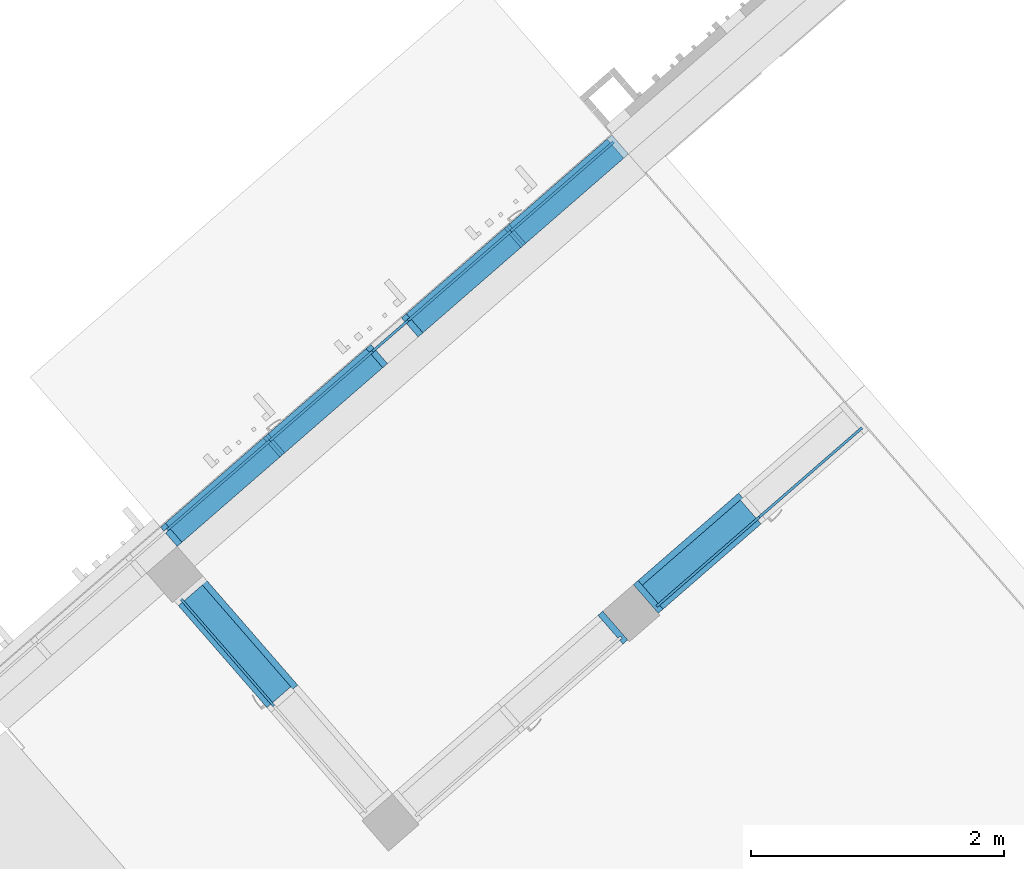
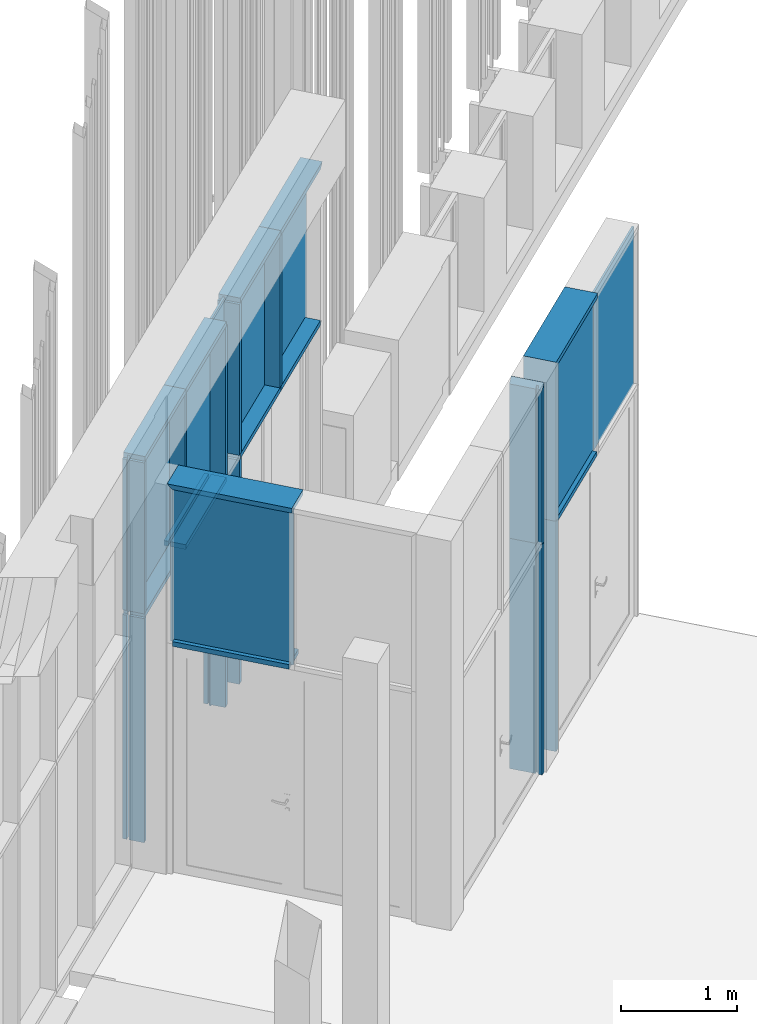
# One storey, part 44 of 390: 33 discrete accessories, 4 elements without a shape of their own.
"""IFC2X3 building model written with IfcOpenShell, lengths in millimetres."""

import ifcopenshell
import ifcopenshell.guid

model = None  # the IFC model being written
_history = None  # IfcOwnerHistory: only IFC2X3 demands one
_inside = {}  # id of a spatial element -> (the spatial element, [elements in it])
_under = {}  # id of a project, library or spatial element -> (it, [spatial elements below it])
_declared = {}  # id of a project -> (the project, [libraries it declares])
_typed = {}  # id of a type object -> (the type object, [elements of that type])
_made_of = {}  # id of a material, layer set ... -> (it, [elements and type objects made of it])


def new_model(schema):
    """Start an empty IFC model of exactly this schema.

    Asked for "IFC4X3", IfcOpenShell would pick the latest addendum, in which some entities
    have other attributes; the version numbers below select the first issue.
    IFC2X3 requires an IfcOwnerHistory on every rooted entity: one is made here for all.
    """
    global model, _history
    if schema == "IFC4X3":
        model = ifcopenshell.file(schema_version=(4, 3, 0, 0))
    else:
        model = ifcopenshell.file(schema=schema)
    _inside.clear()
    _under.clear()
    _declared.clear()
    _typed.clear()
    _made_of.clear()
    _history = None
    if model.schema == "IFC2X3":
        org = make("IfcOrganization", Name="unknown")
        user = make(
            "IfcPersonAndOrganization",
            ThePerson=make("IfcPerson", FamilyName="unknown"),
            TheOrganization=org,
        )
        app = make(
            "IfcApplication",
            ApplicationDeveloper=org,
            Version="unknown",
            ApplicationFullName="unknown",
            ApplicationIdentifier="unknown",
        )
        _history = make(
            "IfcOwnerHistory",
            OwningUser=user,
            OwningApplication=app,
            ChangeAction="ADDED",
            CreationDate=0,
        )
    return model


def make(cls, **values):
    """One entity of the class cls with the attributes given. An attribute that is None is left unset."""
    return model.create_entity(
        cls, **{name: value for name, value in values.items() if value is not None}
    )


def entity(cls, *values):
    """Any entity or typed value of the class cls, its attributes in the order of the schema. None: left unset."""
    e = model.create_entity(cls)
    for i, value in enumerate(values):
        if value is not None:
            e[i] = value
    return e


def rooted(cls, **values):
    """An entity with a GlobalId (a new one), such as an element, a storey or a relation."""
    return make(cls, GlobalId=ifcopenshell.guid.new(), OwnerHistory=_history, **values)


def si_unit(unit_type, name, prefix=None):
    """IfcSIUnit, for example si_unit("LENGTHUNIT", "METRE", prefix="MILLI")."""
    return make("IfcSIUnit", UnitType=unit_type, Prefix=prefix, Name=name)


def converted_unit(unit_type, name, factor, base, dimensions=None, offset=None):
    """IfcConversionBasedUnit, such as the inch: factor (a typed value) times the base unit."""
    return make(
        "IfcConversionBasedUnit"
        if offset is None
        else "IfcConversionBasedUnitWithOffset",
        ConversionOffset=offset,
        Dimensions=None
        if dimensions is None
        else entity("IfcDimensionalExponents", *dimensions),
        UnitType=unit_type,
        Name=name,
        ConversionFactor=make(
            "IfcMeasureWithUnit", ValueComponent=factor, UnitComponent=base
        ),
    )


def derived_unit(unit_type, elements):
    """IfcDerivedUnit: a product of units, each with its exponent."""
    return make(
        "IfcDerivedUnit",
        Elements=[
            make("IfcDerivedUnitElement", Unit=unit, Exponent=power)
            for unit, power in elements
        ],
        UnitType=unit_type,
    )


def money_unit(currency):
    """IfcMonetaryUnit."""
    return make("IfcMonetaryUnit", Currency=currency)


def assignment(units):
    """IfcUnitAssignment: the units of a project."""
    return None if units is None else make("IfcUnitAssignment", Units=units)


def point(xyz):
    """IfcCartesianPoint."""
    return None if xyz is None else make("IfcCartesianPoint", Coordinates=xyz)


def direction(xyz):
    """IfcDirection."""
    return None if xyz is None else make("IfcDirection", DirectionRatios=xyz)


def frame(location, z_axis=None, x_axis=None):
    """IfcAxis2Placement3D, a coordinate frame: its origin and axes. An axis left out is left unset."""
    return make(
        "IfcAxis2Placement3D",
        Location=point(location),
        Axis=direction(z_axis),
        RefDirection=direction(x_axis),
    )


def origin_with_axes():
    """The frame at (0, 0, 0) with the z axis (0, 0, 1) and the x axis (1, 0, 0) written out."""
    return frame((0.0, 0.0, 0.0), z_axis=(0.0, 0.0, 1.0), x_axis=(1.0, 0.0, 0.0))


def place(relative_to, where):
    """IfcLocalPlacement: puts the frame where relative to a parent placement (None: the world)."""
    return make(
        "IfcLocalPlacement", PlacementRelTo=relative_to, RelativePlacement=where
    )


def context(
    kind, dimensions, precision=None, world=None, true_north=None, identifier=None
):
    """IfcGeometricRepresentationContext, for example the 3D "Model" context."""
    return make(
        "IfcGeometricRepresentationContext",
        ContextIdentifier=identifier,
        ContextType=kind,
        CoordinateSpaceDimension=dimensions,
        Precision=precision,
        WorldCoordinateSystem=world,
        TrueNorth=true_north,
    )


def subcontext(parent, identifier, kind, view, scale=None):
    """IfcGeometricRepresentationSubContext, for example "Body" below "Model"."""
    return make(
        "IfcGeometricRepresentationSubContext",
        ContextIdentifier=identifier,
        ContextType=kind,
        ParentContext=parent,
        TargetScale=scale,
        TargetView=view,
    )


def project(units=None, contexts=None):
    """IfcProject with its units and contexts."""
    return rooted(
        "IfcProject",
        Name="project",
        RepresentationContexts=contexts,
        UnitsInContext=assignment(units),
    )


def spatial(cls, under=None, at=None, **own):
    """A site, building, storey or space (cls), placed at a placement, below another one or the project."""
    s = rooted(cls, ObjectPlacement=at, **own)
    if under is not None:
        _under.setdefault(under.id(), (under, []))[1].append(s)
    return s


def polyline(points):
    """IfcPolyline through the points."""
    return make("IfcPolyline", Points=[point(p) for p in points])


def outline(outer, holes=None, kind="AREA"):
    """IfcArbitraryClosedProfileDef: a profile drawn as a closed curve; with holes, ...WithVoids."""
    if holes is None:
        return make("IfcArbitraryClosedProfileDef", ProfileType=kind, OuterCurve=outer)
    return make(
        "IfcArbitraryProfileDefWithVoids",
        ProfileType=kind,
        OuterCurve=outer,
        InnerCurves=holes,
    )


def extrude(swept, where, along, depth):
    """IfcExtrudedAreaSolid: the profile swept, set in the frame where, extruded along a direction by depth."""
    return make(
        "IfcExtrudedAreaSolid",
        SweptArea=swept,
        Position=where,
        ExtrudedDirection=direction(along),
        Depth=depth,
    )


def clip(a, b, op="DIFFERENCE"):
    """IfcBooleanClippingResult: the solid a cut by the half space b."""
    return make(
        "IfcBooleanClippingResult", Operator=op, FirstOperand=a, SecondOperand=b
    )


def halfspace(plane, agree):
    """IfcHalfSpaceSolid: all space on one side of the plane z = 0 of the frame plane."""
    return make(
        "IfcHalfSpaceSolid",
        BaseSurface=make("IfcPlane", Position=plane),
        AgreementFlag=agree,
    )


def shape(context_of_items, identifier, shape_type, items):
    """IfcShapeRepresentation: the items that make up one representation, for example the "Body"."""
    return make(
        "IfcShapeRepresentation",
        ContextOfItems=context_of_items,
        RepresentationIdentifier=identifier,
        RepresentationType=shape_type,
        Items=items,
    )


def material(Name=None, Category=None):
    """IfcMaterial."""
    return make("IfcMaterial", Name=Name, Category=Category)


def material_list(materials):
    """IfcMaterialList."""
    return make("IfcMaterialList", Materials=materials)


def made_of(thing, what):
    """Note that an element or type object is made of a material, layer set ...; save() writes the relation."""
    if what is not None:
        _made_of.setdefault(what.id(), (what, []))[1].append(thing)
    return thing


def type_object(cls, material=None, **own):
    """A type object (cls), such as IfcWallType, which elements share."""
    return made_of(rooted(cls, **own), material)


def element(
    cls,
    number,
    at=None,
    inside=None,
    cuts=None,
    type_object=None,
    material=None,
    context=None,
    identifier="Body",
    shape_type=None,
    held_by="IfcProductDefinitionShape",
    body=None,
    shapes=None,
    **own,
):
    """One element of the class cls, such as IfcWall. Its Tag is "e" and its number.

    at: its placement. inside: the storey or other place that contains it. cuts: it is an
    opening in that element (IfcRelVoidsElement). A single representation is given by context,
    identifier, shape_type and body (its items); several are given by shapes. held_by: the class
    of the entity that holds the representations. save() writes the other relations.
    """
    e = rooted(cls, Tag="e%d" % number, ObjectPlacement=at, **own)
    if body is not None:
        shapes = [shape(context, identifier, shape_type, body)]
    if shapes is not None:
        e.Representation = make(held_by, Representations=shapes)
    if inside is not None:
        _inside.setdefault(inside.id(), (inside, []))[1].append(e)
    if cuts is not None:
        rooted(
            "IfcRelVoidsElement", RelatingBuildingElement=cuts, RelatedOpeningElement=e
        )
    if type_object is not None:
        _typed.setdefault(type_object.id(), (type_object, []))[1].append(e)
    return made_of(e, material)


def aggregate(whole, parts):
    """IfcRelAggregates: a whole, such as a stair, and the parts it consists of."""
    return rooted("IfcRelAggregates", RelatingObject=whole, RelatedObjects=parts)


def save(model, path):
    """Write the relations noted so far, then the file.

    IfcRelAggregates (storeys below a building ...), IfcRelContainedInSpatialStructure (elements
    in a storey), IfcRelDefinesByType, IfcRelAssociatesMaterial and IfcRelDeclares: one each for
    every whole, place, type object, material and project.
    """
    for whole, parts in _under.values():
        aggregate(whole, parts)
    for where, things in _inside.values():
        rooted(
            "IfcRelContainedInSpatialStructure",
            RelatedElements=things,
            RelatingStructure=where,
        )
    for kind, things in _typed.values():
        rooted("IfcRelDefinesByType", RelatedObjects=things, RelatingType=kind)
    for what, things in _made_of.values():
        rooted("IfcRelAssociatesMaterial", RelatedObjects=things, RelatingMaterial=what)
    for by, libraries in _declared.values():
        rooted("IfcRelDeclares", RelatingContext=by, RelatedDefinitions=libraries)
    model.write(path)


model = new_model("IFC2X3")

# Units and contexts
model_context = context("Model", 3, precision=1e-05, world=origin_with_axes(), true_north=direction((0.0, 1.0)))
body_context = subcontext(model_context, "Body", "Model", "MODEL_VIEW")
ifc_project = project(units=[si_unit("LENGTHUNIT", "METRE", prefix="MILLI"), si_unit("AREAUNIT", "SQUARE_METRE"), si_unit("VOLUMEUNIT", "CUBIC_METRE"), converted_unit("PLANEANGLEUNIT", "DEGREE", entity("IfcPlaneAngleMeasure", 0.0174532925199), si_unit("PLANEANGLEUNIT", "RADIAN"), dimensions=[0, 0, 0, 0, 0, 0, 0]), si_unit("SOLIDANGLEUNIT", "STERADIAN"), money_unit("EUR"), converted_unit("TIMEUNIT", "Year", entity("IfcTimeMeasure", 31556926.0), si_unit("TIMEUNIT", "SECOND"), dimensions=[0, 0, 1, 0, 0, 0, 0]), si_unit("MASSUNIT", "GRAM", prefix="KILO"), si_unit("THERMODYNAMICTEMPERATUREUNIT", "DEGREE_CELSIUS"), si_unit("LUMINOUSINTENSITYUNIT", "LUMEN"), si_unit("ENERGYUNIT", "JOULE", prefix="MEGA"), derived_unit("THERMALCONDUCTANCEUNIT", [(si_unit("POWERUNIT", "WATT"), 1), (si_unit("LENGTHUNIT", "METRE"), -1), (si_unit("THERMODYNAMICTEMPERATUREUNIT", "KELVIN"), -1)]), derived_unit("SPECIFICHEATCAPACITYUNIT", [(si_unit("ENERGYUNIT", "JOULE"), 1), (si_unit("MASSUNIT", "GRAM", prefix="KILO"), -1), (si_unit("THERMODYNAMICTEMPERATUREUNIT", "KELVIN"), -1)]), derived_unit("MASSDENSITYUNIT", [(si_unit("MASSUNIT", "GRAM", prefix="KILO"), 1), (si_unit("VOLUMEUNIT", "CUBIC_METRE"), -1)])], contexts=[model_context])

# Site, building, storey
site_placement = place(None, origin_with_axes())
site = spatial("IfcSite", under=ifc_project, at=site_placement, Name="Site", CompositionType="ELEMENT")
building_placement = place(site_placement, origin_with_axes())
building = spatial("IfcBuilding", under=site, at=building_placement, Name="Building", CompositionType="ELEMENT")
storey_placement = place(building_placement, origin_with_axes())
storey = spatial("IfcBuildingStorey", under=building, at=storey_placement, Name="1 korrus", CompositionType="ELEMENT", Elevation=0.0)

# Curtain wall, discrete accessories
curtain_wall_type_1 = type_object("IfcCurtainWallType", Name="KS-19", PredefinedType="NOTDEFINED")
curtain_wall_1_placement = place(storey_placement, frame((133652.123893, 83883.7618175, -5.55524941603e-05), z_axis=(0.0, 0.0, 1.0), x_axis=(1.0, 0.0, 0.0)))
curtain_wall_1 = element("IfcCurtainWall", 1, at=curtain_wall_1_placement, inside=storey, type_object=curtain_wall_type_1, Name="Klaasfassaad")
ifc_material_1 = material(Name="Klaas")
discrete_accessory_type_1 = type_object("IfcDiscreteAccessoryType", Name="Main Panel 1120 x 1655 x 20")
discrete_accessory_1_placement = place(curtain_wall_1_placement, frame((-373.953644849, 430.184462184, 3262.50000463), z_axis=(0.0, 0.0, 1.0), x_axis=(-0.65605902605, 0.754709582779, 0.0)))
discrete_accessory_1 = element("IfcDiscreteAccessory", 2, at=discrete_accessory_1_placement, type_object=discrete_accessory_type_1, material=ifc_material_1, Name="KS-19 klaaspakett", context=body_context, shape_type="SweptSolid", body=[
    extrude(outline(polyline([(-570.000006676, -817.499952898), (550.000003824, -817.499952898), (550.000003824, 837.499949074), (-570.000006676, 837.499949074), (-570.000006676, -817.499952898)])), frame((0.0, -9.99999999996, 0.0), z_axis=(0.0, 1.0, 0.0), x_axis=(1.0, 0.0, 0.0)), (0.0, 0.0, 1.0), 20.0),
])
ifc_material_2 = material(Name="Aluminium MUST")
discrete_accessory_type_2 = type_object("IfcDiscreteAccessoryType", Name="50 x 300")
discrete_accessory_2_placement = place(curtain_wall_1_placement, frame((0.0, 0.0, 4099.9999537), z_axis=(-0.65605902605, 0.754709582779, 0.0), x_axis=(0.0, 0.0, -1.0)))
discrete_accessory_2 = element("IfcDiscreteAccessory", 3, at=discrete_accessory_2_placement, type_object=discrete_accessory_type_2, material=ifc_material_2, Name="KS-19 profiil", context=body_context, shape_type="Clipping", body=[
    clip(extrude(outline(polyline([(9.99999999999, 25.0), (-9.99999999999, 25.0), (-10.0, 50.0), (-50.0, 50.0), (-50.0, 0.0), (250.0, 0.0), (250.0, 50.0), (9.99999999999, 50.0), (9.99999999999, 25.0)])), frame((0.0, 0.0, 0.0), z_axis=(0.0, 0.0, 1.0), x_axis=(0.0, -1.0, 0.0)), (0.0, 0.0, 1.0), 1140.0), halfspace(frame((570.0, 0.0, 570.0), z_axis=(-0.707106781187, 0.0, -0.707106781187), x_axis=(0.0, 1.0, 0.0)), True)),
])
ifc_material_list_1 = material_list([ifc_material_2, ifc_material_2])
discrete_accessory_type_3 = type_object("IfcDiscreteAccessoryType", Name="50 x 250")
discrete_accessory_3_placement = place(curtain_wall_1_placement, frame((-747.907289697, 860.368924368, 2425.00005555), z_axis=(0.65605902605, -0.754709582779, 0.0), x_axis=(0.0, 0.0, 1.0)))
discrete_accessory_3 = element("IfcDiscreteAccessory", 4, at=discrete_accessory_3_placement, type_object=discrete_accessory_type_3, material=ifc_material_list_1, Name="KS-19 profiil", context=body_context, shape_type="SweptSolid", body=[
    extrude(outline(polyline([(-9.99999999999, 25.0), (-200.0, 25.0), (-200.0, -25.0), (-9.99999999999, -25.0), (-9.99999999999, 25.0)])), frame((0.0, 0.0, 50.0), z_axis=(0.0, 0.0, 1.0), x_axis=(0.0, 1.0, 0.0)), (0.0, 0.0, 1.0), 1065.0),
    extrude(outline(polyline([(10.0, 25.0), (10.0, -25.0), (50.0, -25.0), (50.0, 25.0), (10.0, 25.0)])), frame((0.0, 0.0, 50.0), z_axis=(0.0, 0.0, 1.0), x_axis=(0.0, 1.0, 0.0)), (0.0, 0.0, 1.0), 1065.0),
])
aggregate(curtain_wall_1, [discrete_accessory_1, discrete_accessory_3, discrete_accessory_2])

curtain_wall_type_2 = type_object("IfcCurtainWallType", Name="KS-18", PredefinedType="NOTDEFINED")
curtain_wall_2_placement = place(storey_placement, frame((137484.771856, 85373.6641261, -5.55524941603e-05), z_axis=(0.0, 0.0, 1.0), x_axis=(1.0, 0.0, 0.0)))
curtain_wall_2 = element("IfcCurtainWall", 5, at=curtain_wall_2_placement, inside=storey, type_object=curtain_wall_type_2, Name="Klaas-sein")
discrete_accessory_type_4 = type_object("IfcDiscreteAccessoryType", Name="Main Panel 1080 x 1655 x 20")
discrete_accessory_4_placement = place(curtain_wall_2_placement, frame((415.090268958, 360.832466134, 3262.50000463), z_axis=(0.0, 0.0, 1.0), x_axis=(0.754709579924, 0.656059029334, 0.0)))
discrete_accessory_4 = element("IfcDiscreteAccessory", 6, at=discrete_accessory_4_placement, type_object=discrete_accessory_type_4, material=ifc_material_1, Name="KS-18 klaaspakett", context=body_context, shape_type="SweptSolid", body=[
    extrude(outline(polyline([(-549.999989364, -817.499952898), (530.000003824, -817.499952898), (530.000003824, 837.499949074), (-549.999989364, 837.499949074), (-549.999989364, -817.499952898)])), frame((0.0, -10.0, 0.0), z_axis=(0.0, 1.0, 0.0), x_axis=(1.0, 0.0, 0.0)), (0.0, 0.0, 1.0), 20.0),
])
discrete_accessory_type_5 = type_object("IfcDiscreteAccessoryType", Name="Distinct Panel 1080 x 1655 x 20")
discrete_accessory_5_placement = place(curtain_wall_2_placement, frame((-415.090268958, -360.832466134, 3262.50000463), z_axis=(0.0, 0.0, 1.0), x_axis=(0.754709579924, 0.656059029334, 0.0)))
discrete_accessory_5 = element("IfcDiscreteAccessory", 7, at=discrete_accessory_5_placement, type_object=discrete_accessory_type_5, material=ifc_material_1, Name="KS-18 klaaspakett", context=body_context, shape_type="SweptSolid", body=[
    extrude(outline(polyline([(-529.999993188, -817.499952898), (550.0, -817.499952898), (550.0, 837.499949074), (-529.999993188, 837.499949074), (-529.999993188, -817.499952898)])), frame((0.0, -9.99999999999, 0.0), z_axis=(0.0, 1.0, 0.0), x_axis=(1.0, 0.0, 0.0)), (0.0, 0.0, 1.0), 20.0),
])

curtain_wall_3_placement = place(storey_placement, frame((135582.903827, 83720.3952404, -5.55524941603e-05), z_axis=(0.0, 0.0, 1.0), x_axis=(1.0, 0.0, 0.0)))
curtain_wall_3 = element("IfcCurtainWall", 8, at=curtain_wall_3_placement, inside=storey, type_object=curtain_wall_type_2, Name="Klaas-sein")
discrete_accessory_type_6 = type_object("IfcDiscreteAccessoryType", Name="50 x 300")
discrete_accessory_6_placement = place(curtain_wall_3_placement, frame((830.180537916, 721.664932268, 0.0), z_axis=(0.0, 0.0, 1.0), x_axis=(0.754709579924, 0.656059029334, 0.0)))
discrete_accessory_6 = element("IfcDiscreteAccessory", 9, at=discrete_accessory_6_placement, type_object=discrete_accessory_type_6, material=ifc_material_2, Name="KS-18 profiil", context=body_context, shape_type="SweptSolid", body=[
    extrude(outline(polyline([(-25.4283297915, -8.85437993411), (-12.3071492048, -23.9485715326), (-31.1748887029, -40.350047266), (-4.93252752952, -70.5384304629), (32.8029514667, -37.7354789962), (-164.014757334, 188.677394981), (-201.75023633, 155.874443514), (-44.2960692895, -25.2558556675), (-25.4283297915, -8.85437993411)])), frame((0.0, 0.0, 0.0), z_axis=(0.0, 0.0, 1.0), x_axis=(0.754709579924, -0.656059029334, 0.0)), (0.0, 0.0, 1.0), 2425.00005555),
])
discrete_accessory_7_placement = place(curtain_wall_3_placement, frame((830.180537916, 721.664932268, 2425.00005555), z_axis=(0.0, 0.0, 1.0), x_axis=(0.754709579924, 0.656059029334, 0.0)))
discrete_accessory_7 = element("IfcDiscreteAccessory", 10, at=discrete_accessory_7_placement, type_object=discrete_accessory_type_6, material=ifc_material_2, Name="KS-18 profiil", context=body_context, shape_type="Clipping", body=[
    clip(extrude(outline(polyline([(-25.4283297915, -8.85437993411), (-12.3071492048, -23.9485715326), (-31.1748887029, -40.3500472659), (-4.93252752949, -70.5384304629), (32.8029514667, -37.7354789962), (-164.014757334, 188.677394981), (-201.75023633, 155.874443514), (-44.2960692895, -25.2558556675), (-25.4283297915, -8.85437993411)])), frame((0.0, 0.0, 0.0), z_axis=(0.0, 0.0, 1.0), x_axis=(0.754709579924, -0.656059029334, 0.0)), (0.0, 0.0, 1.0), 1674.99989815), halfspace(frame((-837.499949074, 0.0, 837.499949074), z_axis=(0.707106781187, 0.0, -0.707106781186), x_axis=(0.0, 1.0, 0.0)), True)),
])
aggregate(curtain_wall_3, [discrete_accessory_6, discrete_accessory_7])

# Discrete accessory
discrete_accessory_8_placement = place(curtain_wall_2_placement, frame((-830.180537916, -721.664932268, 4099.9999537), z_axis=(0.754709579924, 0.656059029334, 0.0), x_axis=(0.0, 0.0, -1.0)))
discrete_accessory_8 = element("IfcDiscreteAccessory", 11, at=discrete_accessory_8_placement, type_object=discrete_accessory_type_6, material=ifc_material_2, Name="KS-18 profiil", context=body_context, shape_type="Clipping", body=[
    clip(extrude(outline(polyline([(-10.0, 25.0), (-10.0, 50.0), (-250.0, 50.0), (-250.0, 0.0), (50.0, 0.0), (50.0, 50.0), (9.99999999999, 50.0), (9.99999999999, 25.0), (-10.0, 25.0)])), frame((0.0, 0.0, 0.0), z_axis=(0.0, 0.0, 1.0), x_axis=(0.0, -1.0, 0.0)), (0.0, 0.0, 1.0), 1100.0), halfspace(frame((0.0, 0.0, 0.0), z_axis=(-0.707106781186, 0.0, 0.707106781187), x_axis=(0.0, -1.0, 0.0)), True)),
])

discrete_accessory_9_placement = place(curtain_wall_2_placement, frame((-830.180537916, -721.664932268, 2425.00005555), z_axis=(0.0, 0.0, 1.0), x_axis=(0.754709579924, 0.656059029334, 0.0)))
discrete_accessory_9 = element("IfcDiscreteAccessory", 12, at=discrete_accessory_9_placement, type_object=discrete_accessory_type_6, material=ifc_material_2, Name="KS-18 profiil", context=body_context, shape_type="Clipping", body=[
    clip(extrude(outline(polyline([(12.3071492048, 23.9485715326), (31.1748887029, 40.3500472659), (-126.279278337, 221.480346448), (-164.014757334, 188.677394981), (32.8029514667, -37.7354789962), (70.5384304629, -4.9325275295), (44.2960692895, 25.2558556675), (25.4283297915, 8.85437993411), (12.3071492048, 23.9485715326)])), frame((0.0, 0.0, 0.0), z_axis=(0.0, 0.0, 1.0), x_axis=(0.754709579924, -0.656059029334, 0.0)), (0.0, 0.0, 1.0), 1674.99989815), halfspace(frame((837.499949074, 0.0, 837.499949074), z_axis=(-0.707106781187, 0.0, -0.707106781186), x_axis=(0.0, 1.0, 0.0)), True)),
])

discrete_accessory_10_placement = place(curtain_wall_2_placement, frame((-830.180537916, -721.664932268, 0.0), z_axis=(0.0, 0.0, 1.0), x_axis=(0.754709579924, 0.656059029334, 0.0)))
discrete_accessory_10 = element("IfcDiscreteAccessory", 13, at=discrete_accessory_10_placement, type_object=discrete_accessory_type_6, material=ifc_material_2, Name="KS-18 profiil", context=body_context, shape_type="SweptSolid", body=[
    extrude(outline(polyline([(12.3071492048, 23.9485715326), (31.1748887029, 40.3500472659), (-126.279278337, 221.480346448), (-164.014757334, 188.677394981), (32.8029514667, -37.7354789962), (70.5384304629, -4.93252752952), (44.2960692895, 25.2558556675), (25.4283297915, 8.85437993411), (12.3071492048, 23.9485715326)])), frame((0.0, 0.0, 0.0), z_axis=(0.0, 0.0, 1.0), x_axis=(0.754709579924, -0.656059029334, 0.0)), (0.0, 0.0, 1.0), 2425.00005555),
])

discrete_accessory_type_7 = type_object("IfcDiscreteAccessoryType", Name="50 x 250")
discrete_accessory_11_placement = place(curtain_wall_2_placement, frame((0.0, 0.0, 2425.00005555), z_axis=(-0.754709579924, -0.656059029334, 0.0), x_axis=(0.0, 0.0, 1.0)))
discrete_accessory_11 = element("IfcDiscreteAccessory", 14, at=discrete_accessory_11_placement, type_object=discrete_accessory_type_7, material=ifc_material_list_1, Name="KS-18 profiil", context=body_context, shape_type="SweptSolid", body=[
    extrude(outline(polyline([(10.0, -25.0), (200.0, -25.0), (200.0, 25.0), (10.0, 25.0), (10.0, -25.0)])), frame((0.0, 0.0, 24.9999999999), z_axis=(0.0, 0.0, 1.0), x_axis=(0.0, 1.0, 0.0)), (0.0, 0.0, 1.0), 1025.0),
    extrude(outline(polyline([(-9.99999999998, 25.0), (-50.0, 25.0), (-50.0, -25.0), (-9.99999999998, -25.0), (-9.99999999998, 25.0)])), frame((0.0, 0.0, 25.0), z_axis=(0.0, 0.0, 1.0), x_axis=(0.0, 1.0, 0.0)), (0.0, 0.0, 1.0), 1025.0),
])

aggregate(curtain_wall_2, [discrete_accessory_4, discrete_accessory_5, discrete_accessory_8, discrete_accessory_9, discrete_accessory_11, discrete_accessory_10])

# Curtain wall, discrete accessories
curtain_wall_type_3 = type_object("IfcCurtainWallType", Name="KLF-16", PredefinedType="NOTDEFINED")
curtain_wall_4_placement = place(storey_placement, frame((129915.663376, 82755.7268841, -0.000187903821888), z_axis=(0.0, 0.0, 1.0), x_axis=(1.0, 0.0, 0.0)))
curtain_wall_4 = element("IfcCurtainWall", 15, at=curtain_wall_4_placement, inside=storey, type_object=curtain_wall_type_3, Name="Klaasfassaad")
discrete_accessory_type_8 = type_object("IfcDiscreteAccessoryType", Name="Distinct Panel 370 x 2415 x 20")
discrete_accessory_12_placement = place(curtain_wall_4_placement, frame((4656.55810803, 4047.88421111, 1217.50009502), z_axis=(0.0, 0.0, 1.0), x_axis=(0.754709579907, 0.656059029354, 0.0)))
discrete_accessory_12 = element("IfcDiscreteAccessory", 16, at=discrete_accessory_12_placement, type_object=discrete_accessory_type_8, material=ifc_material_1, Name="KLF-16 klaaspakett", context=body_context, shape_type="SweptSolid", body=[
    extrude(outline(polyline([(-185.000017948, -1217.50009343), (185.000014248, -1217.50009343), (185.000014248, 1197.50022382), (-184.999981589, 1197.49996931), (-185.000017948, -1217.50009343)])), frame((0.0, -9.99999999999, 0.0), z_axis=(0.0, 1.0, 0.0), x_axis=(1.0, 0.0, 0.0)), (0.0, 0.0, 1.0), 20.0),
])
discrete_accessory_type_9 = type_object("IfcDiscreteAccessoryType", Name="Distinct Panel 1080 x 1645 x 20")
discrete_accessory_13_placement = place(curtain_wall_4_placement, frame((6022.58244766, 5235.35105424, 3267.50003473), z_axis=(0.0, 0.0, 1.0), x_axis=(0.754709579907, 0.656059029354, 0.0)))
discrete_accessory_13 = element("IfcDiscreteAccessory", 17, at=discrete_accessory_13_placement, type_object=discrete_accessory_type_9, material=ifc_material_1, Name="KLF-16 klaaspakett", context=body_context, shape_type="SweptSolid", body=[
    extrude(outline(polyline([(-549.999992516, -812.499843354), (529.999996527, -812.499843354), (529.999996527, 832.499846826), (-549.999992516, 832.499846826), (-549.999992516, -812.499843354)])), frame((0.0, -9.99999999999, 0.0), z_axis=(0.0, 1.0, 0.0), x_axis=(1.0, 0.0, 0.0)), (0.0, 0.0, 1.0), 20.0),
])
discrete_accessory_type_10 = type_object("IfcDiscreteAccessoryType", Name="Distinct Panel 1075 x 1645 x 20")
discrete_accessory_14_placement = place(curtain_wall_4_placement, frame((5201.83577951, 4521.88685982, 3267.50003473), z_axis=(0.0, 0.0, 1.0), x_axis=(0.754709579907, 0.656059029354, 0.0)))
discrete_accessory_14 = element("IfcDiscreteAccessory", 18, at=discrete_accessory_14_placement, type_object=discrete_accessory_type_10, material=ifc_material_1, Name="KLF-16 klaaspakett", context=body_context, shape_type="SweptSolid", body=[
    extrude(outline(polyline([(-537.499989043, -812.499843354), (537.499999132, -812.499843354), (537.499999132, 832.499846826), (-537.499989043, 832.499846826), (-537.499989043, -812.499843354)])), frame((0.0, -9.99999999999, 0.0), z_axis=(0.0, 1.0, 0.0), x_axis=(1.0, 0.0, 0.0)), (0.0, 0.0, 1.0), 20.0),
])
discrete_accessory_15_placement = place(curtain_wall_4_placement, frame((4111.28043654, 3573.8815624, 3267.50003473), z_axis=(0.0, 0.0, 1.0), x_axis=(0.754709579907, 0.656059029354, 0.0)))
discrete_accessory_15 = element("IfcDiscreteAccessory", 19, at=discrete_accessory_15_placement, type_object=discrete_accessory_type_10, material=ifc_material_1, Name="KLF-16 klaaspakett", context=body_context, shape_type="SweptSolid", body=[
    extrude(outline(polyline([(-537.499989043, -812.499843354), (537.499999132, -812.499843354), (537.499999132, 832.499846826), (-537.499989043, 832.499846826), (-537.499989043, -812.499843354)])), frame((0.0, -10.0, 0.0), z_axis=(0.0, 1.0, 0.0), x_axis=(1.0, 0.0, 0.0)), (0.0, 0.0, 1.0), 20.0),
])
discrete_accessory_16_placement = place(curtain_wall_4_placement, frame((3299.96763814, 2868.61810585, 3267.50003473), z_axis=(0.0, 0.0, 1.0), x_axis=(0.754709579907, 0.656059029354, 0.0)))
discrete_accessory_16 = element("IfcDiscreteAccessory", 20, at=discrete_accessory_16_placement, type_object=discrete_accessory_type_10, material=ifc_material_1, Name="KLF-16 klaaspakett", context=body_context, shape_type="SweptSolid", body=[
    extrude(outline(polyline([(-537.499989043, -812.499843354), (537.499999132, -812.499843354), (537.499999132, 832.499846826), (-537.499989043, 832.499846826), (-537.499989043, -812.499843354)])), frame((0.0, -9.99999999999, 0.0), z_axis=(0.0, 1.0, 0.0), x_axis=(1.0, 0.0, 0.0)), (0.0, 0.0, 1.0), 20.0),
])
discrete_accessory_type_11 = type_object("IfcDiscreteAccessoryType", Name="Distinct Panel 370 x 1645 x 20")
discrete_accessory_17_placement = place(curtain_wall_4_placement, frame((4656.55810803, 4047.88421111, 3267.50003473), z_axis=(0.0, 0.0, 1.0), x_axis=(0.754709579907, 0.656059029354, 0.0)))
discrete_accessory_17 = element("IfcDiscreteAccessory", 21, at=discrete_accessory_17_placement, type_object=discrete_accessory_type_11, material=ifc_material_1, Name="KLF-16 klaaspakett", context=body_context, shape_type="SweptSolid", body=[
    extrude(outline(polyline([(-184.999990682, -812.499843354), (184.999999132, -812.499843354), (184.999999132, 832.499846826), (-184.999990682, 832.499846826), (-184.999990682, -812.499843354)])), frame((0.0, -10.0, 0.0), z_axis=(0.0, 1.0, 0.0), x_axis=(1.0, 0.0, 0.0)), (0.0, 0.0, 1.0), 20.0),
])
discrete_accessory_type_12 = type_object("IfcDiscreteAccessoryType", Name="50 x 200")
discrete_accessory_18_placement = place(curtain_wall_4_placement, frame((6437.67271661, 5596.18352039, 2435.0001879), z_axis=(-0.754709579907, -0.656059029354, 0.0), x_axis=(0.0, 0.0, 1.0)))
discrete_accessory_18 = element("IfcDiscreteAccessory", 22, at=discrete_accessory_18_placement, type_object=discrete_accessory_type_12, material=ifc_material_list_1, Name="KLF-16 profiil", context=body_context, shape_type="SweptSolid", body=[
    extrude(outline(polyline([(-150.0, -25.0), (-10.0, -25.0), (-10.0, 25.0), (-150.0, 25.0), (-150.0, -25.0)])), frame((0.0, 0.0, 50.0), z_axis=(0.0, 0.0, 1.0), x_axis=(0.0, 1.0, 0.0)), (0.0, 0.0, 1.0), 1050.0),
    extrude(outline(polyline([(50.0, 25.0), (9.99999999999, 25.0), (9.99999999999, -25.0), (50.0, -25.0), (50.0, 25.0)])), frame((0.0, 0.0, 50.0), z_axis=(0.0, 0.0, 1.0), x_axis=(0.0, 1.0, 0.0)), (0.0, 0.0, 1.0), 1050.0),
])
discrete_accessory_19_placement = place(curtain_wall_4_placement, frame((5607.49217871, 4874.5185881, 2435.0001879), z_axis=(-0.754709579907, -0.656059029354, 0.0), x_axis=(0.0, 0.0, 1.0)))
discrete_accessory_19 = element("IfcDiscreteAccessory", 23, at=discrete_accessory_19_placement, type_object=discrete_accessory_type_12, material=ifc_material_list_1, Name="KLF-16 profiil", context=body_context, shape_type="SweptSolid", body=[
    extrude(outline(polyline([(-150.0, -25.0), (-9.99999999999, -25.0), (-9.99999999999, 25.0), (-150.0, 25.0), (-150.0, -25.0)])), frame((0.0, 0.0, 0.0), z_axis=(0.0, 0.0, 1.0), x_axis=(0.0, 1.0, 0.0)), (0.0, 0.0, 1.0), 1075.0),
    extrude(outline(polyline([(50.0, 25.0), (9.99999999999, 25.0), (9.99999999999, -25.0), (50.0, -25.0), (50.0, 25.0)])), frame((0.0, 0.0, 0.0), z_axis=(0.0, 0.0, 1.0), x_axis=(0.0, 1.0, 0.0)), (0.0, 0.0, 1.0), 1075.0),
])
discrete_accessory_20_placement = place(curtain_wall_4_placement, frame((4796.17938031, 4169.25513154, -0.000126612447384), z_axis=(0.0, 0.0, 1.0), x_axis=(0.754709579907, 0.656059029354, 0.0)))
discrete_accessory_20 = element("IfcDiscreteAccessory", 24, at=discrete_accessory_20_placement, type_object=discrete_accessory_type_12, material=ifc_material_list_1, Name="KLF-16 profiil", context=body_context, shape_type="SweptSolid", body=[
    extrude(outline(polyline([(117.276593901, -96.8049612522), (25.4283297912, 8.85437993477), (-12.3071492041, -23.9485715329), (79.5411149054, -129.60791272), (117.276593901, -96.8049612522)])), frame((0.0, 0.0, 50.0000069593), z_axis=(0.0, 0.0, 1.0), x_axis=(0.754709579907, -0.656059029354, 0.0)), (0.0, 0.0, 1.0), 2360.00030756),
    extrude(outline(polyline([(-51.6706909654, 21.3340032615), (-25.4283297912, -8.85437993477), (12.3071492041, 23.9485715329), (-13.93521197, 54.1369547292), (-51.6706909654, 21.3340032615)])), frame((0.0, 0.0, 49.9999652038), z_axis=(0.0, 0.0, 1.0), x_axis=(0.754709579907, -0.656059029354, 0.0)), (0.0, 0.0, 1.0), 2360.00034931),
])
discrete_accessory_21_placement = place(curtain_wall_4_placement, frame((4516.93683574, 3926.51329068, 2435.0001879), z_axis=(-0.754709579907, -0.656059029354, 0.0), x_axis=(0.0, 0.0, 1.0)))
discrete_accessory_21 = element("IfcDiscreteAccessory", 25, at=discrete_accessory_21_placement, type_object=discrete_accessory_type_12, material=ifc_material_list_1, Name="KLF-16 profiil", context=body_context, shape_type="SweptSolid", body=[
    extrude(outline(polyline([(-150.0, -25.0), (-10.0, -25.0), (-10.0, 25.0), (-150.0, 25.0), (-150.0, -25.0)])), frame((0.0, 0.0, 0.0), z_axis=(0.0, 0.0, 1.0), x_axis=(0.0, 1.0, 0.0)), (0.0, 0.0, 1.0), 1075.0),
    extrude(outline(polyline([(50.0, 25.0), (9.99999999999, 25.0), (9.99999999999, -25.0), (50.0, -25.0), (50.0, 25.0)])), frame((0.0, 0.0, 0.0), z_axis=(0.0, 0.0, 1.0), x_axis=(0.0, 1.0, 0.0)), (0.0, 0.0, 1.0), 1075.0),
])
discrete_accessory_22_placement = place(curtain_wall_4_placement, frame((4516.93683574, 3926.51329068, 0.000130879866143), z_axis=(0.0, 0.0, 1.0), x_axis=(0.754709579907, 0.656059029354, 0.0)))
discrete_accessory_22 = element("IfcDiscreteAccessory", 26, at=discrete_accessory_22_placement, type_object=discrete_accessory_type_12, material=ifc_material_list_1, Name="KLF-16 profiil", context=body_context, shape_type="SweptSolid", body=[
    extrude(outline(polyline([(117.276593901, -96.8049612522), (25.4283297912, 8.85437993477), (-12.3071492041, -23.9485715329), (79.5411149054, -129.60791272), (117.276593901, -96.8049612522)])), frame((0.0, 0.0, 50.0000069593), z_axis=(0.0, 0.0, 1.0), x_axis=(0.754709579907, -0.656059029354, 0.0)), (0.0, 0.0, 1.0), 2360.00005006),
    extrude(outline(polyline([(-51.6706909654, 21.3340032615), (-25.4283297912, -8.85437993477), (12.3071492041, 23.9485715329), (-13.93521197, 54.1369547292), (-51.6706909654, 21.3340032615)])), frame((0.0, 0.0, 49.9999652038), z_axis=(0.0, 0.0, 1.0), x_axis=(0.754709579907, -0.656059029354, 0.0)), (0.0, 0.0, 1.0), 2360.00009182),
])
discrete_accessory_23_placement = place(curtain_wall_4_placement, frame((3705.62403734, 3221.24983413, 2435.0001879), z_axis=(-0.754709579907, -0.656059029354, 0.0), x_axis=(0.0, 0.0, 1.0)))
discrete_accessory_23 = element("IfcDiscreteAccessory", 27, at=discrete_accessory_23_placement, type_object=discrete_accessory_type_12, material=ifc_material_list_1, Name="KLF-16 profiil", context=body_context, shape_type="SweptSolid", body=[
    extrude(outline(polyline([(-150.0, -25.0), (-9.99999999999, -25.0), (-9.99999999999, 25.0), (-150.0, 25.0), (-150.0, -25.0)])), frame((0.0, 0.0, 0.0), z_axis=(0.0, 0.0, 1.0), x_axis=(0.0, 1.0, 0.0)), (0.0, 0.0, 1.0), 1075.0),
    extrude(outline(polyline([(50.0, 25.0), (9.99999999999, 25.0), (9.99999999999, -25.0), (50.0, -25.0), (50.0, 25.0)])), frame((0.0, 0.0, 0.0), z_axis=(0.0, 0.0, 1.0), x_axis=(0.0, 1.0, 0.0)), (0.0, 0.0, 1.0), 1075.0),
])
discrete_accessory_24_placement = place(curtain_wall_4_placement, frame((2894.31123894, 2515.98637757, 0.000130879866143), z_axis=(0.0, 0.0, 1.0), x_axis=(0.754709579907, 0.656059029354, 0.0)))
discrete_accessory_24 = element("IfcDiscreteAccessory", 28, at=discrete_accessory_24_placement, type_object=discrete_accessory_type_12, material=ifc_material_list_1, Name="KLF-16 profiil", context=body_context, shape_type="SweptSolid", body=[
    extrude(outline(polyline([(117.276593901, -96.8049612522), (25.4283297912, 8.85437993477), (-12.3071492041, -23.9485715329), (79.5411149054, -129.60791272), (117.276593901, -96.8049612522)])), frame((0.0, 0.0, 50.0), z_axis=(0.0, 0.0, 1.0), x_axis=(0.754709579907, -0.656059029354, 0.0)), (0.0, 0.0, 1.0), 2360.00005702),
    extrude(outline(polyline([(-51.6706909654, 21.3340032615), (-25.4283297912, -8.85437993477), (12.3071492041, 23.9485715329), (-13.93521197, 54.1369547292), (-51.6706909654, 21.3340032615)])), frame((0.0, 0.0, 50.0), z_axis=(0.0, 0.0, 1.0), x_axis=(0.754709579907, -0.656059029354, 0.0)), (0.0, 0.0, 1.0), 2360.00005702),
])
ifc_material_list_2 = material_list([ifc_material_2, ifc_material_2, ifc_material_2])
discrete_accessory_25_placement = place(curtain_wall_4_placement, frame((2894.31123894, 2515.98637757, 4099.99988156), z_axis=(0.754709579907, 0.656059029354, 0.0), x_axis=(0.0, 0.0, -1.0)))
discrete_accessory_25 = element("IfcDiscreteAccessory", 29, at=discrete_accessory_25_placement, type_object=discrete_accessory_type_12, material=ifc_material_list_2, Name="KLF-16 profiil", context=body_context, shape_type="SweptSolid", body=[
    extrude(outline(polyline([(10.0, 25.0), (-10.0, 25.0), (-10.0, 0.0), (10.0, 0.0), (10.0, 25.0)])), frame((0.0, 0.0, 0.0), z_axis=(0.0, 0.0, 1.0), x_axis=(0.0, -1.0, 0.0)), (0.0, 0.0, 1.0), 1075.0),
    extrude(outline(polyline([(150.0, 50.0), (10.0, 50.0), (10.0, 0.0), (150.0, 0.0), (150.0, 50.0)])), frame((0.0, 0.0, 0.0), z_axis=(0.0, 0.0, 1.0), x_axis=(0.0, -1.0, 0.0)), (0.0, 0.0, 1.0), 1075.0),
    extrude(outline(polyline([(-50.0, 0.0), (-10.0, 0.0), (-10.0, 50.0), (-50.0, 50.0), (-50.0, 0.0)])), frame((0.0, 0.0, 0.0), z_axis=(0.0, 0.0, 1.0), x_axis=(0.0, -1.0, 0.0)), (0.0, 0.0, 1.0), 1075.0),
])
discrete_accessory_26_placement = place(curtain_wall_4_placement, frame((2894.31123894, 2515.98637757, 2435.0001879), z_axis=(0.0, 0.0, 1.0), x_axis=(0.754709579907, 0.656059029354, 0.0)))
discrete_accessory_26 = element("IfcDiscreteAccessory", 30, at=discrete_accessory_26_placement, type_object=discrete_accessory_type_12, material=ifc_material_list_1, Name="KLF-16 profiil", context=body_context, shape_type="SweptSolid", body=[
    extrude(outline(polyline([(117.276593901, -96.8049612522), (25.4283297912, 8.85437993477), (-12.3071492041, -23.9485715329), (79.5411149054, -129.60791272), (117.276593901, -96.8049612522)])), frame((0.0, 0.0, 25.0), z_axis=(0.0, 0.0, 1.0), x_axis=(0.754709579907, -0.656059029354, 0.0)), (0.0, 0.0, 1.0), 1589.99969365),
    extrude(outline(polyline([(-51.6706909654, 21.3340032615), (-25.4283297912, -8.85437993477), (12.3071492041, 23.9485715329), (-13.93521197, 54.1369547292), (-51.6706909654, 21.3340032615)])), frame((0.0, 0.0, 25.0), z_axis=(0.0, 0.0, 1.0), x_axis=(0.754709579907, -0.656059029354, 0.0)), (0.0, 0.0, 1.0), 1589.99969365),
])
discrete_accessory_27_placement = place(curtain_wall_4_placement, frame((4796.17938031, 4169.25513154, 2435.0001879), z_axis=(0.0, 0.0, 1.0), x_axis=(0.754709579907, 0.656059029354, 0.0)))
discrete_accessory_27 = element("IfcDiscreteAccessory", 31, at=discrete_accessory_27_placement, type_object=discrete_accessory_type_12, material=ifc_material_list_1, Name="KLF-16 profiil", context=body_context, shape_type="SweptSolid", body=[
    extrude(outline(polyline([(117.276593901, -96.8049612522), (25.4283297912, 8.85437993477), (-12.3071492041, -23.9485715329), (79.5411149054, -129.60791272), (117.276593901, -96.8049612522)])), frame((0.0, 0.0, 25.0), z_axis=(0.0, 0.0, 1.0), x_axis=(0.754709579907, -0.656059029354, 0.0)), (0.0, 0.0, 1.0), 1589.99969365),
    extrude(outline(polyline([(-51.6706909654, 21.3340032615), (-25.4283297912, -8.85437993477), (12.3071492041, 23.9485715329), (-13.93521197, 54.1369547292), (-51.6706909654, 21.3340032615)])), frame((0.0, 0.0, 25.0), z_axis=(0.0, 0.0, 1.0), x_axis=(0.754709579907, -0.656059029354, 0.0)), (0.0, 0.0, 1.0), 1589.99969365),
])
discrete_accessory_28_placement = place(curtain_wall_4_placement, frame((5607.49217871, 4874.5185881, 4099.99988156), z_axis=(0.754709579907, 0.656059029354, 0.0), x_axis=(0.0, 0.0, -1.0)))
discrete_accessory_28 = element("IfcDiscreteAccessory", 32, at=discrete_accessory_28_placement, type_object=discrete_accessory_type_12, material=ifc_material_list_2, Name="KLF-16 profiil", context=body_context, shape_type="Clipping", body=[
    clip(extrude(outline(polyline([(10.0, 25.0), (-9.99999999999, 25.0), (-10.0, 0.0), (9.99999999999, 0.0), (10.0, 25.0)])), frame((0.0, 0.0, 0.0), z_axis=(0.0, 0.0, 1.0), x_axis=(0.0, -1.0, 0.0)), (0.0, 0.0, 1.0), 1100.0), halfspace(frame((550.0, 0.0, 550.0), z_axis=(-0.707106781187, 0.0, -0.707106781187), x_axis=(0.0, 1.0, 0.0)), True)),
    clip(extrude(outline(polyline([(150.0, 50.0), (10.0, 50.0), (9.99999999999, 0.0), (150.0, 0.0), (150.0, 50.0)])), frame((0.0, 0.0, 0.0), z_axis=(0.0, 0.0, 1.0), x_axis=(0.0, -1.0, 0.0)), (0.0, 0.0, 1.0), 1100.0), halfspace(frame((550.0, 0.0, 550.0), z_axis=(-0.707106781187, 0.0, -0.707106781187), x_axis=(0.0, 1.0, 0.0)), True)),
    clip(extrude(outline(polyline([(-50.0, 0.0), (-10.0, 0.0), (-9.99999999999, 50.0), (-50.0, 50.0), (-50.0, 0.0)])), frame((0.0, 0.0, 0.0), z_axis=(0.0, 0.0, 1.0), x_axis=(0.0, -1.0, 0.0)), (0.0, 0.0, 1.0), 1100.0), halfspace(frame((550.0, 0.0, 550.0), z_axis=(-0.707106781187, 0.0, -0.707106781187), x_axis=(0.0, 1.0, 0.0)), True)),
])
discrete_accessory_29_placement = place(curtain_wall_4_placement, frame((5607.49217871, 4874.5185881, 2435.0001879), z_axis=(0.0, 0.0, 1.0), x_axis=(0.754709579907, 0.656059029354, 0.0)))
discrete_accessory_29 = element("IfcDiscreteAccessory", 33, at=discrete_accessory_29_placement, type_object=discrete_accessory_type_12, material=ifc_material_list_1, Name="KLF-16 profiil", context=body_context, shape_type="SweptSolid", body=[
    extrude(outline(polyline([(117.276593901, -96.8049612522), (25.4283297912, 8.85437993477), (-12.3071492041, -23.9485715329), (79.5411149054, -129.60791272), (117.276593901, -96.8049612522)])), frame((0.0, 0.0, 25.0), z_axis=(0.0, 0.0, 1.0), x_axis=(0.754709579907, -0.656059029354, 0.0)), (0.0, 0.0, 1.0), 1589.99969365),
    extrude(outline(polyline([(-51.6706909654, 21.3340032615), (-25.4283297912, -8.85437993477), (12.3071492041, 23.9485715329), (-13.93521197, 54.1369547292), (-51.6706909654, 21.3340032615)])), frame((0.0, 0.0, 25.0), z_axis=(0.0, 0.0, 1.0), x_axis=(0.754709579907, -0.656059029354, 0.0)), (0.0, 0.0, 1.0), 1589.99969365),
])
discrete_accessory_30_placement = place(curtain_wall_4_placement, frame((4516.93683574, 3926.51329068, 2435.0001879), z_axis=(0.0, 0.0, 1.0), x_axis=(0.754709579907, 0.656059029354, 0.0)))
discrete_accessory_30 = element("IfcDiscreteAccessory", 34, at=discrete_accessory_30_placement, type_object=discrete_accessory_type_12, material=ifc_material_list_1, Name="KLF-16 profiil", context=body_context, shape_type="SweptSolid", body=[
    extrude(outline(polyline([(117.276593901, -96.8049612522), (25.4283297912, 8.85437993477), (-12.3071492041, -23.9485715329), (79.5411149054, -129.60791272), (117.276593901, -96.8049612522)])), frame((0.0, 0.0, 25.0), z_axis=(0.0, 0.0, 1.0), x_axis=(0.754709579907, -0.656059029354, 0.0)), (0.0, 0.0, 1.0), 1589.99969365),
    extrude(outline(polyline([(-51.6706909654, 21.3340032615), (-25.4283297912, -8.85437993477), (12.3071492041, 23.9485715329), (-13.93521197, 54.1369547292), (-51.6706909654, 21.3340032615)])), frame((0.0, 0.0, 25.0), z_axis=(0.0, 0.0, 1.0), x_axis=(0.754709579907, -0.656059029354, 0.0)), (0.0, 0.0, 1.0), 1589.99969365),
])
discrete_accessory_31_placement = place(curtain_wall_4_placement, frame((4796.17938031, 4169.25513154, 4099.99988156), z_axis=(0.754709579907, 0.656059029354, 0.0), x_axis=(0.0, 0.0, -1.0)))
discrete_accessory_31 = element("IfcDiscreteAccessory", 35, at=discrete_accessory_31_placement, type_object=discrete_accessory_type_12, material=ifc_material_list_2, Name="KLF-16 profiil", context=body_context, shape_type="SweptSolid", body=[
    extrude(outline(polyline([(9.99999999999, 25.0), (-9.99999999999, 25.0), (-9.99999999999, 0.0), (9.99999999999, 0.0), (9.99999999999, 25.0)])), frame((0.0, 0.0, 0.0), z_axis=(0.0, 0.0, 1.0), x_axis=(0.0, -1.0, 0.0)), (0.0, 0.0, 1.0), 1075.0),
    extrude(outline(polyline([(150.0, 50.0), (9.99999999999, 50.0), (9.99999999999, 0.0), (150.0, 0.0), (150.0, 50.0)])), frame((0.0, 0.0, 0.0), z_axis=(0.0, 0.0, 1.0), x_axis=(0.0, -1.0, 0.0)), (0.0, 0.0, 1.0), 1075.0),
    extrude(outline(polyline([(-50.0, 0.0), (-9.99999999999, 0.0), (-9.99999999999, 50.0), (-50.0, 50.0), (-50.0, 0.0)])), frame((0.0, 0.0, 0.0), z_axis=(0.0, 0.0, 1.0), x_axis=(0.0, -1.0, 0.0)), (0.0, 0.0, 1.0), 1075.0),
])
discrete_accessory_32_placement = place(curtain_wall_4_placement, frame((3705.62403734, 3221.24983413, 4099.99988156), z_axis=(0.754709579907, 0.656059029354, 0.0), x_axis=(0.0, 0.0, -1.0)))
discrete_accessory_32 = element("IfcDiscreteAccessory", 36, at=discrete_accessory_32_placement, type_object=discrete_accessory_type_12, material=ifc_material_list_2, Name="KLF-16 profiil", context=body_context, shape_type="SweptSolid", body=[
    extrude(outline(polyline([(9.99999999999, 25.0), (-10.0, 25.0), (-10.0, 0.0), (9.99999999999, 0.0), (9.99999999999, 25.0)])), frame((0.0, 0.0, 0.0), z_axis=(0.0, 0.0, 1.0), x_axis=(0.0, -1.0, 0.0)), (0.0, 0.0, 1.0), 1075.0),
    extrude(outline(polyline([(150.0, 50.0), (9.99999999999, 50.0), (9.99999999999, 0.0), (150.0, 0.0), (150.0, 50.0)])), frame((0.0, 0.0, 0.0), z_axis=(0.0, 0.0, 1.0), x_axis=(0.0, -1.0, 0.0)), (0.0, 0.0, 1.0), 1075.0),
    extrude(outline(polyline([(-50.0, 0.0), (-10.0, 0.0), (-10.0, 50.0), (-50.0, 50.0), (-50.0, 0.0)])), frame((0.0, 0.0, 0.0), z_axis=(0.0, 0.0, 1.0), x_axis=(0.0, -1.0, 0.0)), (0.0, 0.0, 1.0), 1075.0),
])
discrete_accessory_33_placement = place(curtain_wall_4_placement, frame((3705.62403734, 3221.24983413, 2435.0001879), z_axis=(0.0, 0.0, 1.0), x_axis=(0.754709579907, 0.656059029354, 0.0)))
discrete_accessory_33 = element("IfcDiscreteAccessory", 37, at=discrete_accessory_33_placement, type_object=discrete_accessory_type_12, material=ifc_material_list_1, Name="KLF-16 profiil", context=body_context, shape_type="SweptSolid", body=[
    extrude(outline(polyline([(117.276593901, -96.8049612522), (25.4283297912, 8.85437993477), (-12.3071492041, -23.9485715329), (79.5411149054, -129.60791272), (117.276593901, -96.8049612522)])), frame((0.0, 0.0, 25.0), z_axis=(0.0, 0.0, 1.0), x_axis=(0.754709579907, -0.656059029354, 0.0)), (0.0, 0.0, 1.0), 1589.99969365),
    extrude(outline(polyline([(-51.6706909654, 21.3340032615), (-25.4283297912, -8.85437993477), (12.3071492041, 23.9485715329), (-13.93521197, 54.1369547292), (-51.6706909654, 21.3340032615)])), frame((0.0, 0.0, 25.0), z_axis=(0.0, 0.0, 1.0), x_axis=(0.754709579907, -0.656059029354, 0.0)), (0.0, 0.0, 1.0), 1589.99969365),
])
aggregate(curtain_wall_4, [discrete_accessory_12, discrete_accessory_13, discrete_accessory_14, discrete_accessory_17, discrete_accessory_15, discrete_accessory_16, discrete_accessory_18, discrete_accessory_19, discrete_accessory_20, discrete_accessory_21, discrete_accessory_22, discrete_accessory_23, discrete_accessory_24, discrete_accessory_25, discrete_accessory_26, discrete_accessory_27, discrete_accessory_28, discrete_accessory_29, discrete_accessory_30, discrete_accessory_31, discrete_accessory_32, discrete_accessory_33])

save(model, "model.ifc")
